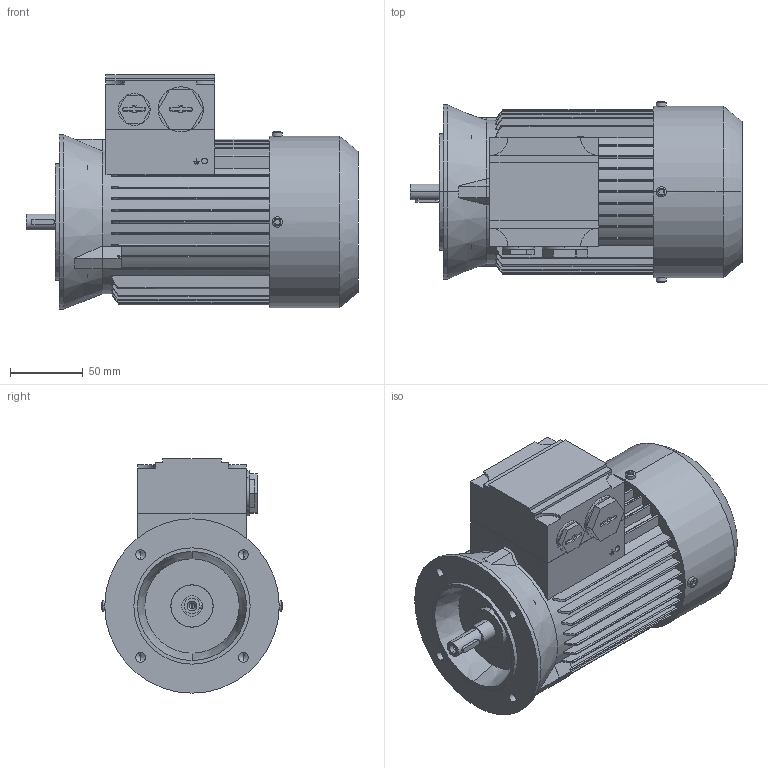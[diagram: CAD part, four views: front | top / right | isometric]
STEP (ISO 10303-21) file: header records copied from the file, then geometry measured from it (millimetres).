
FILE_DESCRIPTION (( 'STEP AP214' ), '1' );
FILE_NAME ('5RN63M04E26 IM3641-B FT100.STEP', '2022-08-11T13:48:46', ( '' ), ( '' ), 'SwSTEP 2.0', 'SolidWorks 2021', '' );
FILE_SCHEMA (( 'AUTOMOTIVE_DESIGN' ));
Length unit declared in the file: millimetre
Products named in the file (1): 5RN63M04E26 IM3641-B FT100
Bounding box: 228.5 x 124 x 161.29 mm (x, y, z)
Volume: 2119260.7 mm3; surface area: 165497.3 mm2
Topology: 1 solids, 1 shells, 442 faces, 1189 edges, 769 vertices
Faces by surface type: plane 244, cylinder 138, torus 34, cone 26
Entity records: 15748 total; most frequent: CARTESIAN_POINT 4491, ORIENTED_EDGE 2358, DIRECTION 2251, EDGE_CURVE 1179, VERTEX_POINT 769, AXIS2_PLACEMENT_3D 762, LINE 727, VECTOR 727
